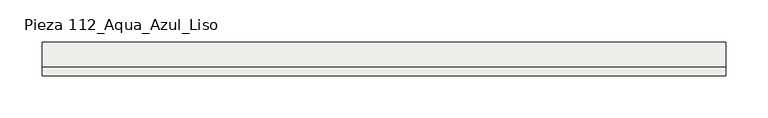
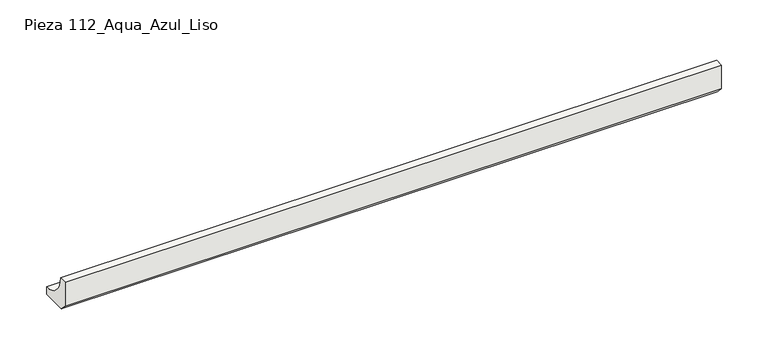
"""IFC4 building model written with IfcOpenShell, lengths in millimetres: slab geometry, ROSA GRES_112 : Pieza 112_Aqua_Azul_Liso."""

from ifc_helpers import new_model, si_unit, point, frame, frame_2d, origin, place, context, project, spatial, polyline, circle_curve, trimmed, segment, composite_curve, outline, extrude, source, transform, mapped, element, save


def pieza_112_aqua_azul_liso_170225c9(model_context):
    return source(origin(), model_context, "Body", "SweptSolid", [
        extrude(outline(composite_curve([segment(polyline([(0.0, 8.7114978), (0.0, 40.0), (9.9734114, 40.0)]), True, "CONTINUOUS"), segment(trimmed(circle_curve(frame_2d((39.9955547, 39.9955547)), 30.0221435), [point((9.9734114, 40.0))], [point((40.0, 9.9734114))], True, "CARTESIAN"), True, "CONTINUOUS"), segment(polyline([(40.0, 9.9734114), (40.0, 0.0), (8.7114978, 0.0), (0.0, 8.7114978)]), True, "CONTINUOUS")], self_intersect=False)), frame((0.0, 0.0, 0.0), z_axis=(1.0, 0.0, 0.0), x_axis=(0.0, 1.0, 0.0)), (0.0, 0.0, 1.0), 813.3450913),
    ])


if __name__ == "__main__":
    model = new_model("IFC4")
    model_context = context("Model", 3, world=origin())
    ifc_project = project(units=[si_unit("LENGTHUNIT", "METRE", prefix="MILLI")], contexts=[model_context])
    site = spatial("IfcSite", under=ifc_project)
    building = spatial("IfcBuilding", under=site)
    placement = place(None, origin())
    pieza_112_aqua_azul_liso_shape = pieza_112_aqua_azul_liso_170225c9(model_context)
    element("IfcSlab", 1, ObjectType="ROSA GRES_112 : Pieza 112_Aqua_Azul_Liso", at=placement, inside=building, context=model_context, shape_type="MappedRepresentation", body=[
        mapped(pieza_112_aqua_azul_liso_shape, transform((0.0, 0.0, 0.0), x_axis=(1.0, 0.0, 0.0), y_axis=(0.0, 1.0, 0.0), z_axis=(0.0, 0.0, 1.0))),
    ])
    save(model, "model.ifc")
